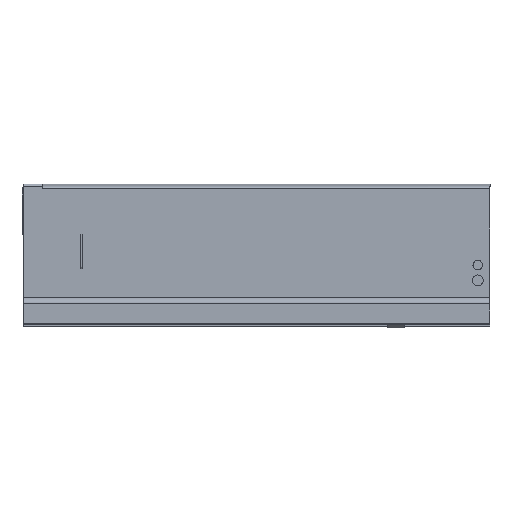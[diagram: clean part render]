
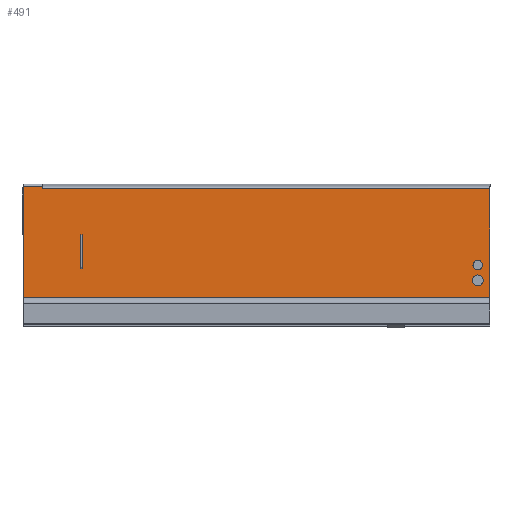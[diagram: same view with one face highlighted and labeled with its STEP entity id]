
A CAD part, left-side view. The second image highlights one B-rep face of the part: STEP entity #491.
In plain terms, the highlighted planar face has unit normal (-1, 0, 0).
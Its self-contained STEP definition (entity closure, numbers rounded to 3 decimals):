
#1 = CARTESIAN_POINT ( 'NONE',  ( -21.5, 10.4, 28.9 ) ) ;
#2 = CARTESIAN_POINT ( 'NONE',  ( -21.5, 380.7, 98.06 ) ) ;
#3 = CARTESIAN_POINT ( 'NONE',  ( -21.5, 10.4, 37.1 ) ) ;
#4 = VERTEX_POINT ( 'NONE', #1 ) ;
#5 = CARTESIAN_POINT ( 'NONE',  ( -21.5, 10.4, 15.4 ) ) ;
#7 = VERTEX_POINT ( 'NONE', #3 ) ;
#8 = VERTEX_POINT ( 'NONE', #142 ) ;
#9 = VERTEX_POINT ( 'NONE', #2 ) ;
#11 = VERTEX_POINT ( 'NONE', #5 ) ;
#17 = VERTEX_POINT ( 'NONE', #149 ) ;
#76 = VERTEX_POINT ( 'NONE', #208 ) ;
#95 = VERTEX_POINT ( 'NONE', #227 ) ;
#96 = VERTEX_POINT ( 'NONE', #228 ) ;
#97 = VERTEX_POINT ( 'NONE', #229 ) ;
#98 = VERTEX_POINT ( 'NONE', #230 ) ;
#99 = VERTEX_POINT ( 'NONE', #231 ) ;
#100 = VERTEX_POINT ( 'NONE', #232 ) ;
#101 = VERTEX_POINT ( 'NONE', #233 ) ;
#142 = CARTESIAN_POINT ( 'NONE',  ( -21.5, 10.4, 24.6 ) ) ;
#149 = CARTESIAN_POINT ( 'NONE',  ( -21.5, 0., 98.06 ) ) ;
#208 = CARTESIAN_POINT ( 'NONE',  ( -21.5, 0., 5.395 ) ) ;
#227 = CARTESIAN_POINT ( 'NONE',  ( -21.5, 397., 5.395 ) ) ;
#228 = CARTESIAN_POINT ( 'NONE',  ( -21.5, 380.7, 100. ) ) ;
#229 = CARTESIAN_POINT ( 'NONE',  ( -21.5, 397., 100. ) ) ;
#230 = CARTESIAN_POINT ( 'NONE',  ( -21.5, 348.45, 30. ) ) ;
#231 = CARTESIAN_POINT ( 'NONE',  ( -21.5, 347.2, 30. ) ) ;
#232 = CARTESIAN_POINT ( 'NONE',  ( -21.5, 348.45, 59. ) ) ;
#233 = CARTESIAN_POINT ( 'NONE',  ( -21.5, 347.2, 59. ) ) ;
#276 = PLANE ( 'NONE',  #980 ) ;
#280 = CARTESIAN_POINT ( 'NONE',  ( -21.5, 144.577, 98.06 ) ) ;
#285 = DIRECTION ( 'NONE',  ( -1., 0., 0. ) ) ;
#286 = DIRECTION ( 'NONE',  ( 0., 0., -1. ) ) ;
#491 = ADVANCED_FACE ( 'NONE', ( #1353, #1216, #1668, #1746 ), #276, .T. ) ;
#570 = CARTESIAN_POINT ( 'NONE',  ( -21.5, 348.45, 59. ) ) ;
#571 = DIRECTION ( 'NONE',  ( 0., -1., 0. ) ) ;
#586 = CARTESIAN_POINT ( 'NONE',  ( -21.5, 10.4, 33. ) ) ;
#595 = DIRECTION ( 'NONE',  ( -1., 0., 0. ) ) ;
#596 = DIRECTION ( 'NONE',  ( 0., 0., -1. ) ) ;
#612 = CARTESIAN_POINT ( 'NONE',  ( -21.5, 380.7, 5.395 ) ) ;
#613 = DIRECTION ( 'NONE',  ( 0., 0., -1. ) ) ;
#619 = CARTESIAN_POINT ( 'NONE',  ( -21.5, 10.4, 20. ) ) ;
#620 = DIRECTION ( 'NONE',  ( -1., 0., 0. ) ) ;
#621 = DIRECTION ( 'NONE',  ( 0., 0., -1. ) ) ;
#631 = CARTESIAN_POINT ( 'NONE',  ( -21.5, 348.45, 30. ) ) ;
#637 = DIRECTION ( 'NONE',  ( 0., -1., 0. ) ) ;
#654 = CARTESIAN_POINT ( 'NONE',  ( -21.5, 144.577, 98.06 ) ) ;
#655 = DIRECTION ( 'NONE',  ( 0., -1., 0. ) ) ;
#680 = CARTESIAN_POINT ( 'NONE',  ( -21.5, 10.4, 20. ) ) ;
#684 = DIRECTION ( 'NONE',  ( -1., 0., 0. ) ) ;
#685 = DIRECTION ( 'NONE',  ( 0., 0., -1. ) ) ;
#696 = CARTESIAN_POINT ( 'NONE',  ( -21.5, 0., 98.06 ) ) ;
#704 = DIRECTION ( 'NONE',  ( 0., 0., -1. ) ) ;
#712 = CARTESIAN_POINT ( 'NONE',  ( -21.5, 348.45, 30. ) ) ;
#713 = DIRECTION ( 'NONE',  ( 0., 0., 1. ) ) ;
#753 = CARTESIAN_POINT ( 'NONE',  ( -21.5, 397., 100. ) ) ;
#754 = DIRECTION ( 'NONE',  ( 0., -1., 0. ) ) ;
#762 = CARTESIAN_POINT ( 'NONE',  ( -21.5, 10.4, 33. ) ) ;
#783 = DIRECTION ( 'NONE',  ( -1., 0., 0. ) ) ;
#784 = DIRECTION ( 'NONE',  ( 0., 0., -1. ) ) ;
#803 = CARTESIAN_POINT ( 'NONE',  ( -21.5, 397., 5.395 ) ) ;
#804 = DIRECTION ( 'NONE',  ( 0., 0., -1. ) ) ;
#854 = CARTESIAN_POINT ( 'NONE',  ( -21.5, 144.577, 5.395 ) ) ;
#855 = DIRECTION ( 'NONE',  ( 0., -1., 0. ) ) ;
#909 = CARTESIAN_POINT ( 'NONE',  ( -21.5, 347.2, 30. ) ) ;
#910 = DIRECTION ( 'NONE',  ( 0., 0., 1. ) ) ;
#980 = AXIS2_PLACEMENT_3D ( 'NONE', #280, #285, #286 ) ;
#1021 = AXIS2_PLACEMENT_3D ( 'NONE', #619, #620, #621 ) ;
#1050 = AXIS2_PLACEMENT_3D ( 'NONE', #762, #783, #784 ) ;
#1070 = EDGE_CURVE ( 'NONE', #100, #101, #1947, .T. ) ;
#1097 = AXIS2_PLACEMENT_3D ( 'NONE', #586, #595, #596 ) ;
#1111 = EDGE_CURVE ( 'NONE', #7, #4, #1878, .T. ) ;
#1112 = AXIS2_PLACEMENT_3D ( 'NONE', #680, #684, #685 ) ;
#1133 = EDGE_CURVE ( 'NONE', #96, #9, #1862, .T. ) ;
#1149 = ORIENTED_EDGE ( 'NONE', *, *, #1070, .T. ) ;
#1153 = ORIENTED_EDGE ( 'NONE', *, *, #1133, .F. ) ;
#1214 = ORIENTED_EDGE ( 'NONE', *, *, #2167, .F. ) ;
#1216 = FACE_BOUND ( 'NONE', #1803, .T. ) ;
#1308 = ORIENTED_EDGE ( 'NONE', *, *, #2117, .F. ) ;
#1353 = FACE_OUTER_BOUND ( 'NONE', #1640, .T. ) ;
#1406 = EDGE_LOOP ( 'NONE', ( #1523, #1725 ) ) ;
#1420 = ORIENTED_EDGE ( 'NONE', *, *, #2189, .T. ) ;
#1433 = ORIENTED_EDGE ( 'NONE', *, *, #2180, .F. ) ;
#1523 = ORIENTED_EDGE ( 'NONE', *, *, #2137, .F. ) ;
#1532 = EDGE_LOOP ( 'NONE', ( #1308, #1730, #1149, #1633 ) ) ;
#1600 = ORIENTED_EDGE ( 'NONE', *, *, #1111, .F. ) ;
#1633 = ORIENTED_EDGE ( 'NONE', *, *, #2238, .F. ) ;
#1640 = EDGE_LOOP ( 'NONE', ( #1760, #1698, #1716, #1153, #1214, #1420 ) ) ;
#1668 = FACE_BOUND ( 'NONE', #1406, .T. ) ;
#1698 = ORIENTED_EDGE ( 'NONE', *, *, #2146, .F. ) ;
#1716 = ORIENTED_EDGE ( 'NONE', *, *, #2124, .F. ) ;
#1725 = ORIENTED_EDGE ( 'NONE', *, *, #2110, .F. ) ;
#1730 = ORIENTED_EDGE ( 'NONE', *, *, #2150, .T. ) ;
#1746 = FACE_BOUND ( 'NONE', #1532, .T. ) ;
#1760 = ORIENTED_EDGE ( 'NONE', *, *, #2213, .T. ) ;
#1803 = EDGE_LOOP ( 'NONE', ( #1433, #1600 ) ) ;
#1838 = VECTOR ( 'NONE', #637, 1000. ) ;
#1850 = CIRCLE ( 'NONE', #1021, 4.6 ) ;
#1852 = LINE ( 'NONE', #631, #1838 ) ;
#1862 = LINE ( 'NONE', #612, #1866 ) ;
#1866 = VECTOR ( 'NONE', #613, 1000. ) ;
#1878 = CIRCLE ( 'NONE', #1097, 4.1 ) ;
#1888 = VECTOR ( 'NONE', #655, 1000. ) ;
#1889 = LINE ( 'NONE', #654, #1888 ) ;
#1903 = LINE ( 'NONE', #854, #1913 ) ;
#1913 = VECTOR ( 'NONE', #855, 1000. ) ;
#1945 = CIRCLE ( 'NONE', #1050, 4.1 ) ;
#1947 = LINE ( 'NONE', #570, #2026 ) ;
#1952 = VECTOR ( 'NONE', #754, 1000. ) ;
#1965 = VECTOR ( 'NONE', #804, 1000. ) ;
#1966 = LINE ( 'NONE', #803, #1965 ) ;
#1983 = LINE ( 'NONE', #753, #1952 ) ;
#2019 = LINE ( 'NONE', #712, #2023 ) ;
#2023 = VECTOR ( 'NONE', #713, 1000. ) ;
#2026 = VECTOR ( 'NONE', #571, 1000. ) ;
#2029 = LINE ( 'NONE', #696, #2035 ) ;
#2035 = VECTOR ( 'NONE', #704, 1000. ) ;
#2047 = CIRCLE ( 'NONE', #1112, 4.6 ) ;
#2087 = LINE ( 'NONE', #909, #2096 ) ;
#2096 = VECTOR ( 'NONE', #910, 1000. ) ;
#2110 = EDGE_CURVE ( 'NONE', #8, #11, #1850, .T. ) ;
#2117 = EDGE_CURVE ( 'NONE', #98, #99, #1852, .T. ) ;
#2124 = EDGE_CURVE ( 'NONE', #9, #17, #1889, .T. ) ;
#2137 = EDGE_CURVE ( 'NONE', #11, #8, #2047, .T. ) ;
#2146 = EDGE_CURVE ( 'NONE', #17, #76, #2029, .T. ) ;
#2150 = EDGE_CURVE ( 'NONE', #98, #100, #2019, .T. ) ;
#2167 = EDGE_CURVE ( 'NONE', #97, #96, #1983, .T. ) ;
#2180 = EDGE_CURVE ( 'NONE', #4, #7, #1945, .T. ) ;
#2189 = EDGE_CURVE ( 'NONE', #97, #95, #1966, .T. ) ;
#2213 = EDGE_CURVE ( 'NONE', #95, #76, #1903, .T. ) ;
#2238 = EDGE_CURVE ( 'NONE', #99, #101, #2087, .T. ) ;
